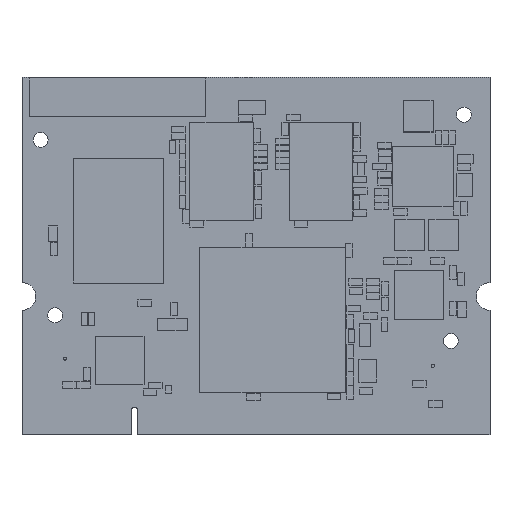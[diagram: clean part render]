
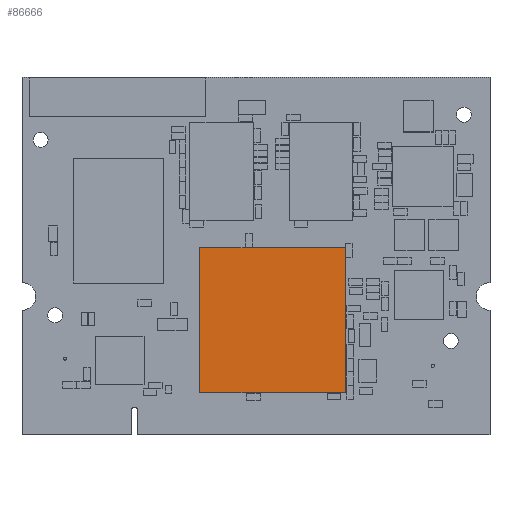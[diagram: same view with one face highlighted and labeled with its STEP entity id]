
A CAD part, top view. The second image highlights one B-rep face of the part: STEP entity #86666.
In plain terms, the highlighted planar face has unit normal (0, 0, 1).
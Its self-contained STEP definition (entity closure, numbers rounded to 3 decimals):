
#70 = ORIENTED_EDGE ( 'NONE', *, *, #6441, .T. ) ;
#1530 = DIRECTION ( 'NONE',  ( 0., 0., -1. ) ) ;
#1616 = DIRECTION ( 'NONE',  ( -1., 0., 0. ) ) ;
#3725 = DIRECTION ( 'NONE',  ( 0., 1., 0. ) ) ;
#5966 = CARTESIAN_POINT ( 'NONE',  ( 54.31, 6.063, 3.161 ) ) ;
#6441 = EDGE_CURVE ( 'NONE', #12955, #62765, #24100, .T. ) ;
#11985 = DIRECTION ( 'NONE',  ( 1., 0., 0. ) ) ;
#12754 = CARTESIAN_POINT ( 'NONE',  ( 0., 0., 3.161 ) ) ;
#12854 = CARTESIAN_POINT ( 'NONE',  ( 33.31, 27.063, 3.161 ) ) ;
#12955 = VERTEX_POINT ( 'NONE', #84539 ) ;
#14968 = CARTESIAN_POINT ( 'NONE',  ( 54.31, 27.063, 3.161 ) ) ;
#23194 = CARTESIAN_POINT ( 'NONE',  ( 54.31, 6.063, 3.161 ) ) ;
#24007 = PLANE ( 'NONE',  #79636 ) ;
#24100 = LINE ( 'NONE', #12854, #102377 ) ;
#24296 = EDGE_CURVE ( 'NONE', #90529, #12955, #26207, .T. ) ;
#26207 = LINE ( 'NONE', #14968, #104362 ) ;
#34400 = FACE_OUTER_BOUND ( 'NONE', #66019, .T. ) ;
#34428 = LINE ( 'NONE', #23194, #86731 ) ;
#41550 = DIRECTION ( 'NONE',  ( 0., -1., 0. ) ) ;
#50570 = ORIENTED_EDGE ( 'NONE', *, *, #86384, .T. ) ;
#52734 = CARTESIAN_POINT ( 'NONE',  ( 33.31, 6.063, 3.161 ) ) ;
#58890 = ORIENTED_EDGE ( 'NONE', *, *, #24296, .T. ) ;
#60021 = CARTESIAN_POINT ( 'NONE',  ( 33.31, 6.063, 3.161 ) ) ;
#61182 = CARTESIAN_POINT ( 'NONE',  ( 33.31, 27.063, 3.161 ) ) ;
#62765 = VERTEX_POINT ( 'NONE', #61182 ) ;
#63981 = LINE ( 'NONE', #52734, #90279 ) ;
#66019 = EDGE_LOOP ( 'NONE', ( #70, #89124, #50570, #58890 ) ) ;
#79636 = AXIS2_PLACEMENT_3D ( 'NONE', #12754, #1530, #99925 ) ;
#84539 = CARTESIAN_POINT ( 'NONE',  ( 54.31, 27.063, 3.161 ) ) ;
#86384 = EDGE_CURVE ( 'NONE', #99916, #90529, #34428, .T. ) ;
#86666 = ADVANCED_FACE ( 'NONE', ( #34400 ), #24007, .F. ) ;
#86731 = VECTOR ( 'NONE', #11985, 1000. ) ;
#89124 = ORIENTED_EDGE ( 'NONE', *, *, #90746, .T. ) ;
#90279 = VECTOR ( 'NONE', #41550, 1000. ) ;
#90529 = VERTEX_POINT ( 'NONE', #5966 ) ;
#90746 = EDGE_CURVE ( 'NONE', #62765, #99916, #63981, .T. ) ;
#99916 = VERTEX_POINT ( 'NONE', #60021 ) ;
#99925 = DIRECTION ( 'NONE',  ( -1., 0., 0. ) ) ;
#102377 = VECTOR ( 'NONE', #1616, 1000. ) ;
#104362 = VECTOR ( 'NONE', #3725, 1000. ) ;
